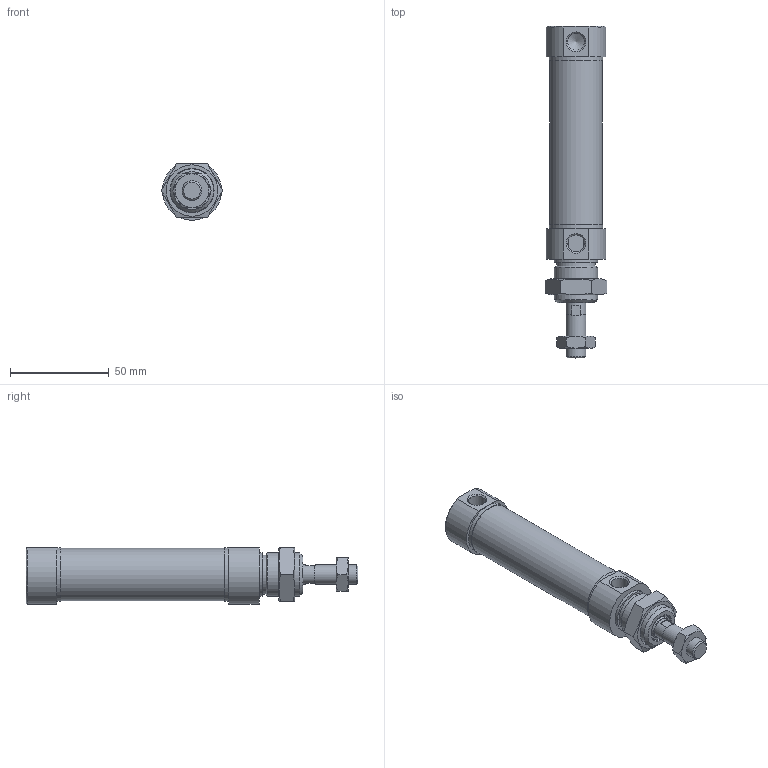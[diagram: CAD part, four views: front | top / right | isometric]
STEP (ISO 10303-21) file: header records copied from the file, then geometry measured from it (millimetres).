
FILE_DESCRIPTION(/* description */ ('Unknown'),/* implementation_level */ '2;1');
FILE_NAME(/* name */ 'RIMR 25_50',/* time_stamp */ '2024-08-30T09:13:47+02:00',/* author */ ('Unknown'),/* organization */ ('Unknown'),/* preprocessor_version */ 'ST-DEVELOPER v16.7',/* originating_system */ 'Solid Edge',/* authorisation */ 'Unknown');
FILE_SCHEMA (('AUTOMOTIVE_DESIGN {1 0 10303 214 3 1 1}'));
Length unit declared in the file: millimetre
Products named in the file (7): RIMR 25_50; Profilrohr; Kolbenstange; Kit_1; Kit_2; Mutter_1; Mutter_2
Assembly tree (6 placements, depth 2):
  RIMR 25_50
    Profilrohr
    Kolbenstange
    Kit_1
    Kit_2
    Mutter_1
    Mutter_2
Bounding box: 31.18 x 168 x 28.44 mm (x, y, z)
Volume: 63341.2 mm3; surface area: 32893.4 mm2
Topology: 6 solids, 6 shells, 124 faces, 248 edges, 150 vertices
Faces by surface type: plane 48, cone 38, cylinder 31, torus 7
Full cylindrical faces by diameter (mm): 2 x1, 5 x1, 8.56 x1, 8.566 x2, 8.647 x1, 10 x2, 10.5 x1, 11.1 x1, 14 x1, 14.1 x1, 16.1 x1, 16.2 x1, 19.7 x1, 20.376 x1, 22 x2, 22.9 x1, 25 x3, 26.5 x1, 27 x2
Entity records: 3770 total; most frequent: CARTESIAN_POINT 546, DIRECTION 504, ORIENTED_EDGE 360, AXIS2_PLACEMENT_3D 234, FACE_BOUND 204, EDGE_LOOP 203, EDGE_CURVE 180, VERTEX_POINT 140
